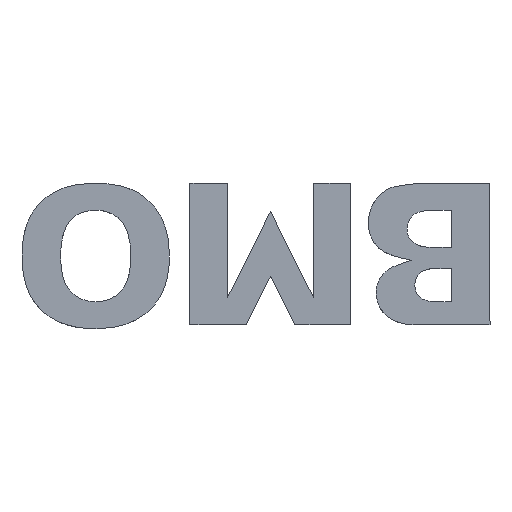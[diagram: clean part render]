
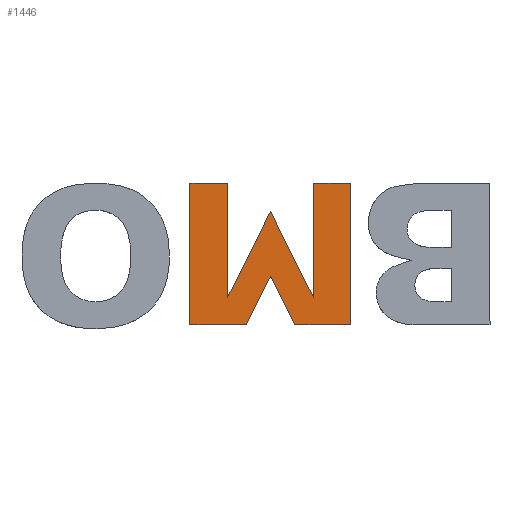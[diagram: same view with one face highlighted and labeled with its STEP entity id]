
A CAD part, top view. The second image highlights one B-rep face of the part: STEP entity #1446.
In plain terms, the highlighted planar face has unit normal (0, 0, 1).
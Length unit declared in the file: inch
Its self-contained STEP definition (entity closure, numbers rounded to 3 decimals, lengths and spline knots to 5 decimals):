
#4 = CARTESIAN_POINT ( 'NONE',  ( -0.59631, 0.59449, 0.075 ) ) ;
#60 = FACE_OUTER_BOUND ( 'NONE', #238, .T. ) ;
#67 = VERTEX_POINT ( 'NONE', #1105 ) ;
#143 = DIRECTION ( 'NONE',  ( 0.449, -0.893, 0. ) ) ;
#144 = VECTOR ( 'NONE', #3164, 39.37008 ) ;
#193 = DIRECTION ( 'NONE',  ( 0., 1., 0. ) ) ;
#208 = LINE ( 'NONE', #1831, #813 ) ;
#238 = EDGE_LOOP ( 'NONE', ( #1014, #1708, #1754, #559, #2733, #426, #1344, #3206, #1539, #952, #2377, #384 ) ) ;
#261 = VECTOR ( 'NONE', #2728, 39.37008 ) ;
#266 = CARTESIAN_POINT ( 'NONE',  ( -0.41082, 1.1675, 0.075 ) ) ;
#271 = CARTESIAN_POINT ( 'NONE',  ( -1.02798, 0.59452, 0.075 ) ) ;
#384 = ORIENTED_EDGE ( 'NONE', *, *, #1563, .T. ) ;
#395 = EDGE_CURVE ( 'NONE', #1185, #2392, #3277, .T. ) ;
#426 = ORIENTED_EDGE ( 'NONE', *, *, #3015, .T. ) ;
#448 = DIRECTION ( 'NONE',  ( 0., 0., 1. ) ) ;
#480 = VECTOR ( 'NONE', #193, 39.37008 ) ;
#499 = LINE ( 'NONE', #3271, #747 ) ;
#520 = VERTEX_POINT ( 'NONE', #3320 ) ;
#559 = ORIENTED_EDGE ( 'NONE', *, *, #2938, .T. ) ;
#571 = DIRECTION ( 'NONE',  ( 0., -1., 0. ) ) ;
#698 = CARTESIAN_POINT ( 'NONE',  ( -1.21602, 0.4575, 0.075 ) ) ;
#747 = VECTOR ( 'NONE', #571, 39.37008 ) ;
#750 = LINE ( 'NONE', #3475, #144 ) ;
#771 = DIRECTION ( 'NONE',  ( 0., -1., 0. ) ) ;
#805 = EDGE_CURVE ( 'NONE', #2834, #3116, #1084, .T. ) ;
#806 = DIRECTION ( 'NONE',  ( -1., 0., 0. ) ) ;
#813 = VECTOR ( 'NONE', #143, 39.37008 ) ;
#952 = ORIENTED_EDGE ( 'NONE', *, *, #1952, .T. ) ;
#1014 = ORIENTED_EDGE ( 'NONE', *, *, #3338, .T. ) ;
#1075 = CARTESIAN_POINT ( 'NONE',  ( -1.02809, 1.16762, 0.075 ) ) ;
#1084 = LINE ( 'NONE', #2902, #2197 ) ;
#1092 = VERTEX_POINT ( 'NONE', #3030 ) ;
#1105 = CARTESIAN_POINT ( 'NONE',  ( -1.21602, 1.16762, 0.075 ) ) ;
#1110 = EDGE_CURVE ( 'NONE', #67, #2003, #499, .T. ) ;
#1117 = CARTESIAN_POINT ( 'NONE',  ( -0.41082, 0.4575, 0.075 ) ) ;
#1136 = CARTESIAN_POINT ( 'NONE',  ( -1.02809, 1.16762, 0.075 ) ) ;
#1185 = VERTEX_POINT ( 'NONE', #2667 ) ;
#1279 = DIRECTION ( 'NONE',  ( 1., 0., 0. ) ) ;
#1310 = DIRECTION ( 'NONE',  ( 1., 0., 0. ) ) ;
#1342 = VECTOR ( 'NONE', #3384, 39.37008 ) ;
#1344 = ORIENTED_EDGE ( 'NONE', *, *, #2901, .T. ) ;
#1411 = CARTESIAN_POINT ( 'NONE',  ( -0.59631, 0.59449, 0.075 ) ) ;
#1431 = LINE ( 'NONE', #1852, #1689 ) ;
#1446 = ADVANCED_FACE ( 'NONE', ( #60 ), #1528, .T. ) ;
#1524 = CARTESIAN_POINT ( 'NONE',  ( -0.59631, 1.1675, 0.075 ) ) ;
#1528 = PLANE ( 'NONE',  #3429 ) ;
#1539 = ORIENTED_EDGE ( 'NONE', *, *, #3124, .T. ) ;
#1543 = CARTESIAN_POINT ( 'NONE',  ( -1.21602, 0.4575, 0.075 ) ) ;
#1553 = EDGE_CURVE ( 'NONE', #3116, #2304, #1431, .T. ) ;
#1563 = EDGE_CURVE ( 'NONE', #520, #3250, #2975, .T. ) ;
#1617 = CARTESIAN_POINT ( 'NONE',  ( -0.41082, 0.4575, 0.075 ) ) ;
#1630 = VECTOR ( 'NONE', #806, 39.37008 ) ;
#1689 = VECTOR ( 'NONE', #771, 39.37008 ) ;
#1708 = ORIENTED_EDGE ( 'NONE', *, *, #805, .T. ) ;
#1754 = ORIENTED_EDGE ( 'NONE', *, *, #1553, .T. ) ;
#1831 = CARTESIAN_POINT ( 'NONE',  ( -0.81216, 0.69981, 0.075 ) ) ;
#1852 = CARTESIAN_POINT ( 'NONE',  ( -0.59631, 1.1675, 0.075 ) ) ;
#1946 = VERTEX_POINT ( 'NONE', #2662 ) ;
#1952 = EDGE_CURVE ( 'NONE', #1092, #1946, #750, .T. ) ;
#1966 = VECTOR ( 'NONE', #3086, 39.37008 ) ;
#1993 = CARTESIAN_POINT ( 'NONE',  ( -1.02798, 0.59452, 0.075 ) ) ;
#2003 = VERTEX_POINT ( 'NONE', #1543 ) ;
#2197 = VECTOR ( 'NONE', #2373, 39.37008 ) ;
#2304 = VERTEX_POINT ( 'NONE', #1411 ) ;
#2373 = DIRECTION ( 'NONE',  ( -1., 0., 0. ) ) ;
#2377 = ORIENTED_EDGE ( 'NONE', *, *, #3085, .T. ) ;
#2392 = VERTEX_POINT ( 'NONE', #1993 ) ;
#2621 = LINE ( 'NONE', #4, #261 ) ;
#2661 = VECTOR ( 'NONE', #1310, 39.37008 ) ;
#2662 = CARTESIAN_POINT ( 'NONE',  ( -0.81216, 0.69981, 0.075 ) ) ;
#2667 = CARTESIAN_POINT ( 'NONE',  ( -0.81216, 1.0238, 0.075 ) ) ;
#2728 = DIRECTION ( 'NONE',  ( -0.449, 0.893, 0. ) ) ;
#2733 = ORIENTED_EDGE ( 'NONE', *, *, #395, .T. ) ;
#2829 = LINE ( 'NONE', #698, #2661 ) ;
#2834 = VERTEX_POINT ( 'NONE', #266 ) ;
#2901 = EDGE_CURVE ( 'NONE', #3282, #67, #3465, .T. ) ;
#2902 = CARTESIAN_POINT ( 'NONE',  ( -0.41082, 1.1675, 0.075 ) ) ;
#2938 = EDGE_CURVE ( 'NONE', #2304, #1185, #2621, .T. ) ;
#2975 = LINE ( 'NONE', #3530, #3054 ) ;
#2998 = LINE ( 'NONE', #271, #480 ) ;
#3015 = EDGE_CURVE ( 'NONE', #2392, #3282, #2998, .T. ) ;
#3030 = CARTESIAN_POINT ( 'NONE',  ( -0.93398, 0.4575, 0.075 ) ) ;
#3054 = VECTOR ( 'NONE', #3478, 39.37008 ) ;
#3085 = EDGE_CURVE ( 'NONE', #1946, #520, #208, .T. ) ;
#3086 = DIRECTION ( 'NONE',  ( 0., 1., 0. ) ) ;
#3088 = CARTESIAN_POINT ( 'NONE',  ( -0.81216, 1.0238, 0.075 ) ) ;
#3116 = VERTEX_POINT ( 'NONE', #1524 ) ;
#3124 = EDGE_CURVE ( 'NONE', #2003, #1092, #2829, .T. ) ;
#3164 = DIRECTION ( 'NONE',  ( 0.449, 0.893, 0. ) ) ;
#3176 = CARTESIAN_POINT ( 'NONE',  ( 0., 0., 0.075 ) ) ;
#3206 = ORIENTED_EDGE ( 'NONE', *, *, #1110, .T. ) ;
#3250 = VERTEX_POINT ( 'NONE', #1617 ) ;
#3257 = LINE ( 'NONE', #1117, #1966 ) ;
#3271 = CARTESIAN_POINT ( 'NONE',  ( -1.21602, 1.16762, 0.075 ) ) ;
#3277 = LINE ( 'NONE', #3088, #1342 ) ;
#3282 = VERTEX_POINT ( 'NONE', #1136 ) ;
#3320 = CARTESIAN_POINT ( 'NONE',  ( -0.69033, 0.4575, 0.075 ) ) ;
#3338 = EDGE_CURVE ( 'NONE', #3250, #2834, #3257, .T. ) ;
#3384 = DIRECTION ( 'NONE',  ( -0.449, -0.893, 0. ) ) ;
#3429 = AXIS2_PLACEMENT_3D ( 'NONE', #3176, #448, #1279 ) ;
#3465 = LINE ( 'NONE', #1075, #1630 ) ;
#3475 = CARTESIAN_POINT ( 'NONE',  ( -0.93398, 0.4575, 0.075 ) ) ;
#3478 = DIRECTION ( 'NONE',  ( 1., 0., 0. ) ) ;
#3530 = CARTESIAN_POINT ( 'NONE',  ( -0.69033, 0.4575, 0.075 ) ) ;
